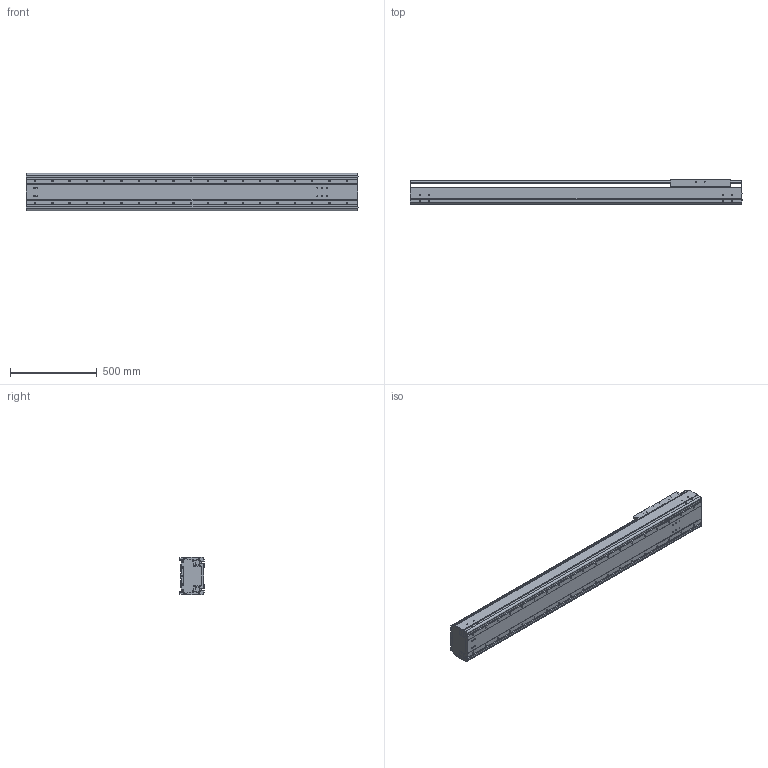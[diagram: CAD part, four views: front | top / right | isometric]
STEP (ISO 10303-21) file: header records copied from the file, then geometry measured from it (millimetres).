
FILE_DESCRIPTION((''),'2;1');
FILE_NAME('BE60G-ST-L_N-E5_IGS_PRT','2017-06-18T',(' '),(''),'PRO/ENGINEER BY PARAMETRIC TECHNOLOGY CORPORATION, 2015030','PRO/ENGINEER BY PARAMETRIC TECHNOLOGY CORPORATION, 2015030','');
FILE_SCHEMA(('CONFIG_CONTROL_DESIGN'));
Products named in the file (1): BE60G-ST-L_N-E5_IGS_PRT
Bounding box: 1917.4 x 140 x 214 mm (x, y, z)
Volume: 15399820.6 mm3; surface area: 4061069.5 mm2
Topology: 2 solids, 172 shells, 1746 faces, 4903 edges, 3221 vertices
Faces by surface type: cylinder 920, plane 642, cone 136, sphere 24, torus 24
Entity records: 58557 total; most frequent: CARTESIAN_POINT 13506, DIRECTION 9446, ORIENTED_EDGE 8862, EDGE_CURVE 4767, AXIS2_PLACEMENT_3D 3553, VERTEX_POINT 3219, VECTOR 2340, LINE 2340
